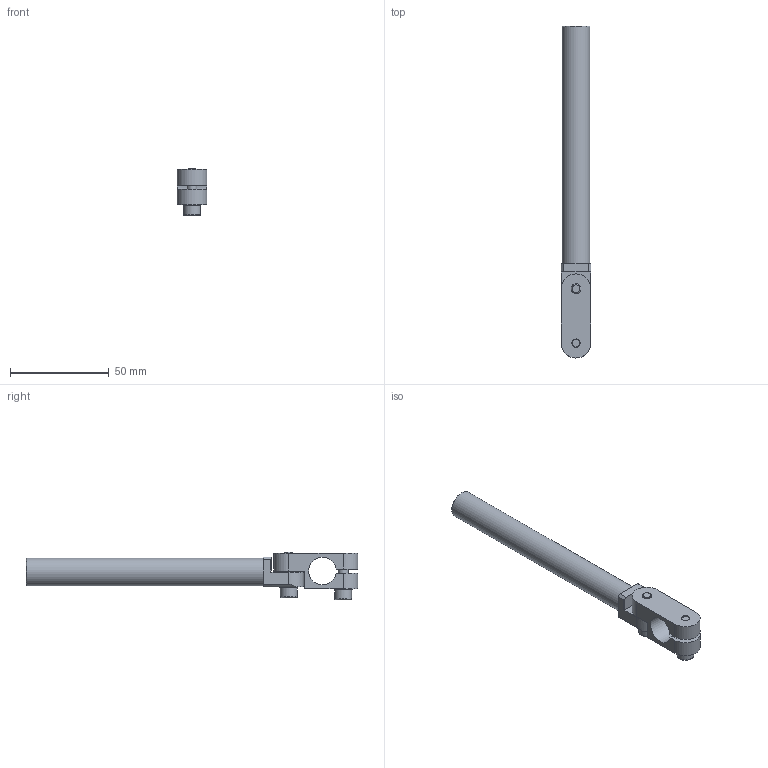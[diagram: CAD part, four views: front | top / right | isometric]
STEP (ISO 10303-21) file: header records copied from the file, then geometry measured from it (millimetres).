
FILE_DESCRIPTION(('STEP AP214'),'1');
FILE_NAME('CA.GLA.1414.120.stp','2020-09-21T09:13:27',(' '),(' '),'Spatial InterOp 3D',' ',' ');
FILE_SCHEMA(('AUTOMOTIVE_DESIGN { 1 0 10303 214 1 1 1 1 }'));
Length unit declared in the file: millimetre
Products named in the file (5): CA.GLA.1414.120; V.TCE5x18; R.5.SCH; GLA.14.2; GLA.14.1.120
Assembly tree (7 placements, depth 2):
  CA.GLA.1414.120
    V.TCE5x18  x2
    R.5.SCH  x3
    GLA.14.2
    GLA.14.1.120
Bounding box: 15 x 168 x 24 mm (x, y, z)
Volume: 22152.2 mm3; surface area: 13961.2 mm2
Topology: 7 solids, 7 shells, 650 faces, 1894 edges, 1257 vertices
Faces by surface type: plane 616, cylinder 25, cone 5, torus 4
Full cylindrical faces by diameter (mm): 4.2 x2, 5 x2, 5.2 x2, 5.3 x3, 8.5 x2, 9 x3, 10 x1, 14 x1
Entity records: 10322 total; most frequent: CARTESIAN_POINT 1428, DIRECTION 1426, ORIENTED_EDGE 1374, EDGE_CURVE 687, AXIS2_PLACEMENT_3D 486, VERTEX_POINT 466, LINE 454, VECTOR 454
